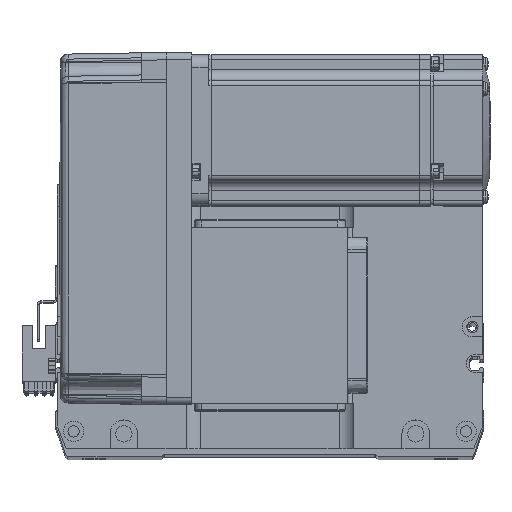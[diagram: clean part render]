
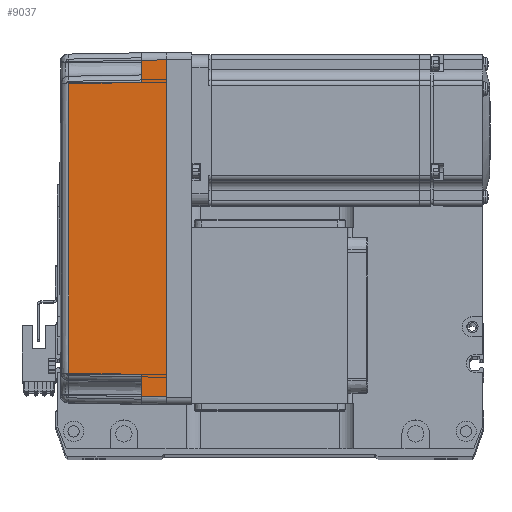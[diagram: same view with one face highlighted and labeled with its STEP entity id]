
A CAD part, top view. The second image highlights one B-rep face of the part: STEP entity #9037.
In plain terms, the highlighted planar face has unit normal (-0.018, 0, 1) as drawn and (0, 1, 0.017) by its records, which use the part's own axes.
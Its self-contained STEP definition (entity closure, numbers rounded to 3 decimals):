
#85 = DIRECTION ( 'NONE',  ( 1., 0., 0. ) ) ;
#1952 = ORIENTED_EDGE ( 'NONE', *, *, #30507, .T. ) ;
#1956 = EDGE_CURVE ( 'NONE', #37470, #28886, #7580, .T. ) ;
#3279 = CARTESIAN_POINT ( 'NONE',  ( 66.826, 35.825, 10. ) ) ;
#3511 = PLANE ( 'NONE',  #29190 ) ;
#4337 = VERTEX_POINT ( 'NONE', #58486 ) ;
#6158 = VERTEX_POINT ( 'NONE', #3279 ) ;
#7350 = DIRECTION ( 'NONE',  ( 1., 0., 0. ) ) ;
#7542 = EDGE_CURVE ( 'NONE', #20338, #4337, #16435, .T. ) ;
#7580 = LINE ( 'NONE', #20707, #15156 ) ;
#8302 = EDGE_CURVE ( 'NONE', #4337, #6158, #46454, .T. ) ;
#8870 = CARTESIAN_POINT ( 'NONE',  ( -19.165, 35.316, 39.181 ) ) ;
#8903 = EDGE_CURVE ( 'NONE', #39542, #17865, #22383, .T. ) ;
#8925 = LINE ( 'NONE', #51746, #58511 ) ;
#9037 = ADVANCED_FACE ( 'NONE', ( #50832 ), #3511, .T. ) ;
#9097 = VERTEX_POINT ( 'NONE', #27877 ) ;
#11627 = VECTOR ( 'NONE', #52333, 1000. ) ;
#11978 = CARTESIAN_POINT ( 'NONE',  ( 0., 36., 0. ) ) ;
#13871 = LINE ( 'NONE', #57341, #11627 ) ;
#14972 = CARTESIAN_POINT ( 'NONE',  ( 57.495, 35.32, 38.985 ) ) ;
#15156 = VECTOR ( 'NONE', #49427, 1000. ) ;
#16435 = LINE ( 'NONE', #43710, #45675 ) ;
#17865 = VERTEX_POINT ( 'NONE', #42857 ) ;
#19083 = ORIENTED_EDGE ( 'NONE', *, *, #7542, .T. ) ;
#19820 = EDGE_CURVE ( 'NONE', #28886, #20338, #32932, .T. ) ;
#20154 = CARTESIAN_POINT ( 'NONE',  ( -58., 35.825, 10. ) ) ;
#20338 = VERTEX_POINT ( 'NONE', #32194 ) ;
#20707 = CARTESIAN_POINT ( 'NONE',  ( -58., 35.825, 10. ) ) ;
#22383 = LINE ( 'NONE', #11978, #55429 ) ;
#23075 = ORIENTED_EDGE ( 'NONE', *, *, #19820, .T. ) ;
#23475 = EDGE_CURVE ( 'NONE', #17865, #6158, #38696, .T. ) ;
#24874 = CARTESIAN_POINT ( 'NONE',  ( -67., 36., 0. ) ) ;
#26135 = VECTOR ( 'NONE', #85, 1000. ) ;
#27877 = CARTESIAN_POINT ( 'NONE',  ( -66.826, 35.825, 10. ) ) ;
#28204 = DIRECTION ( 'NONE',  ( 1., 0., 0. ) ) ;
#28781 = CARTESIAN_POINT ( 'NONE',  ( 19.165, 35.316, 39.181 ) ) ;
#28886 = VERTEX_POINT ( 'NONE', #29224 ) ;
#29190 = AXIS2_PLACEMENT_3D ( 'NONE', #51216, #42389, #61507 ) ;
#29224 = CARTESIAN_POINT ( 'NONE',  ( -57.495, 35.32, 38.985 ) ) ;
#30221 = DIRECTION ( 'NONE',  ( 0.017, 0.017, -1. ) ) ;
#30507 = EDGE_CURVE ( 'NONE', #9097, #37470, #8925, .T. ) ;
#31918 = VECTOR ( 'NONE', #45594, 1000. ) ;
#32194 = CARTESIAN_POINT ( 'NONE',  ( 57.495, 35.32, 38.985 ) ) ;
#32550 = ORIENTED_EDGE ( 'NONE', *, *, #23475, .F. ) ;
#32932 = B_SPLINE_CURVE_WITH_KNOTS ( 'NONE', 3,
 ( #42878, #8870, #28781, #14972 ),
 .UNSPECIFIED., .F., .F.,
 ( 4, 4 ),
 ( 0., 1. ),
 .UNSPECIFIED. ) ;
#36876 = EDGE_CURVE ( 'NONE', #39542, #9097, #13871, .T. ) ;
#37470 = VERTEX_POINT ( 'NONE', #20154 ) ;
#38173 = CARTESIAN_POINT ( 'NONE',  ( 70., 35.825, 10. ) ) ;
#38696 = LINE ( 'NONE', #44762, #31918 ) ;
#39005 = ORIENTED_EDGE ( 'NONE', *, *, #8302, .T. ) ;
#39542 = VERTEX_POINT ( 'NONE', #24874 ) ;
#42389 = DIRECTION ( 'NONE',  ( 0., 1., 0.017 ) ) ;
#42857 = CARTESIAN_POINT ( 'NONE',  ( 67., 36., 0. ) ) ;
#42878 = CARTESIAN_POINT ( 'NONE',  ( -57.495, 35.32, 38.985 ) ) ;
#43710 = CARTESIAN_POINT ( 'NONE',  ( 57.495, 35.32, 38.985 ) ) ;
#44762 = CARTESIAN_POINT ( 'NONE',  ( 67.001, 36.001, -0.052 ) ) ;
#45594 = DIRECTION ( 'NONE',  ( -0.017, -0.017, 1. ) ) ;
#45675 = VECTOR ( 'NONE', #30221, 1000. ) ;
#46454 = LINE ( 'NONE', #38173, #26135 ) ;
#49427 = DIRECTION ( 'NONE',  ( 0.017, -0.017, 1. ) ) ;
#49982 = ORIENTED_EDGE ( 'NONE', *, *, #1956, .T. ) ;
#50832 = FACE_OUTER_BOUND ( 'NONE', #59272, .T. ) ;
#51216 = CARTESIAN_POINT ( 'NONE',  ( 70., 36., 0. ) ) ;
#51746 = CARTESIAN_POINT ( 'NONE',  ( 70., 35.825, 10. ) ) ;
#52333 = DIRECTION ( 'NONE',  ( 0.017, -0.017, 1. ) ) ;
#54863 = ORIENTED_EDGE ( 'NONE', *, *, #36876, .T. ) ;
#55429 = VECTOR ( 'NONE', #7350, 1000. ) ;
#57341 = CARTESIAN_POINT ( 'NONE',  ( -67., 36., 0. ) ) ;
#58313 = ORIENTED_EDGE ( 'NONE', *, *, #8903, .F. ) ;
#58486 = CARTESIAN_POINT ( 'NONE',  ( 58., 35.825, 10. ) ) ;
#58511 = VECTOR ( 'NONE', #28204, 1000. ) ;
#59272 = EDGE_LOOP ( 'NONE', ( #54863, #1952, #49982, #23075, #19083, #39005, #32550, #58313 ) ) ;
#61507 = DIRECTION ( 'NONE',  ( 0., -0.017, 1. ) ) ;
